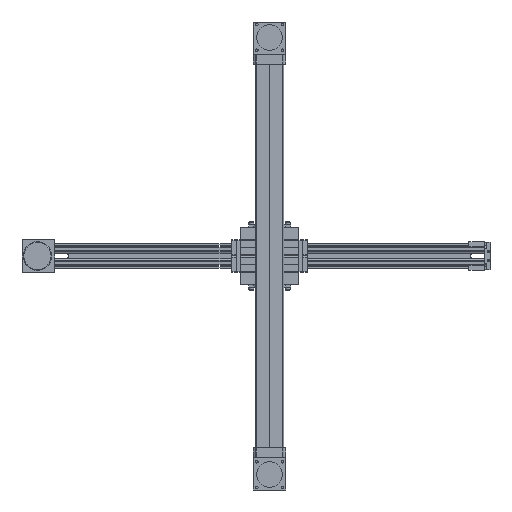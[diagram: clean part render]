
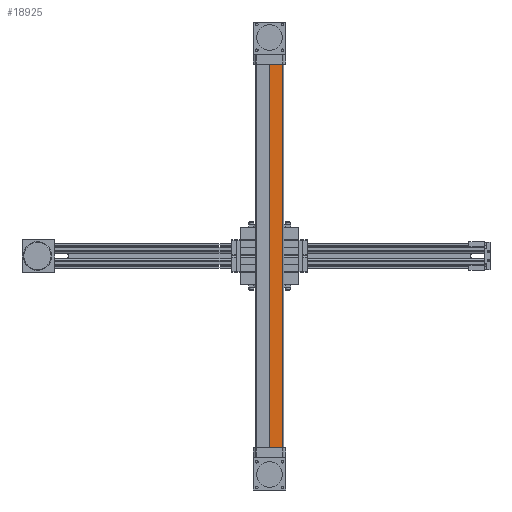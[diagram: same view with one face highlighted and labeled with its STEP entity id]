
A CAD part, left-side view. The second image highlights one B-rep face of the part: STEP entity #18925.
In plain terms, the highlighted planar face has unit normal (-1, 0, 0) as drawn and (0, 0, -1) by its records, which use the part's own axes.
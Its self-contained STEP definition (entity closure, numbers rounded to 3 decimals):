
#1006 = DIRECTION ( 'NONE',  ( 0., 0., -1. ) ) ;
#1591 = VECTOR ( 'NONE', #1902, 1000. ) ;
#1712 = ORIENTED_EDGE ( 'NONE', *, *, #36459, .F. ) ;
#1902 = DIRECTION ( 'NONE',  ( 0., -1., 0. ) ) ;
#5714 = DIRECTION ( 'NONE',  ( -1., 0., 0. ) ) ;
#6843 = DIRECTION ( 'NONE',  ( -1., 0., 0. ) ) ;
#7507 = LINE ( 'NONE', #17042, #7914 ) ;
#7914 = VECTOR ( 'NONE', #33268, 1000. ) ;
#8662 = VERTEX_POINT ( 'NONE', #20266 ) ;
#9932 = VERTEX_POINT ( 'NONE', #20423 ) ;
#10077 = EDGE_CURVE ( 'NONE', #8662, #14526, #24172, .T. ) ;
#10309 = CARTESIAN_POINT ( 'NONE',  ( 410., -28., -93.5 ) ) ;
#10760 = DIRECTION ( 'NONE',  ( -1., 0., 0. ) ) ;
#11392 = CARTESIAN_POINT ( 'NONE',  ( 410., -28., -93.5 ) ) ;
#13644 = LINE ( 'NONE', #10309, #24378 ) ;
#14526 = VERTEX_POINT ( 'NONE', #11392 ) ;
#16818 = FACE_OUTER_BOUND ( 'NONE', #29230, .T. ) ;
#16999 = CARTESIAN_POINT ( 'NONE',  ( 410., -0.1, -93.5 ) ) ;
#17042 = CARTESIAN_POINT ( 'NONE',  ( -410., 0., -93.5 ) ) ;
#18925 = ADVANCED_FACE ( 'NONE', ( #16818 ), #29510, .T. ) ;
#18980 = VERTEX_POINT ( 'NONE', #40494 ) ;
#20266 = CARTESIAN_POINT ( 'NONE',  ( 410., -0.1, -93.5 ) ) ;
#20423 = CARTESIAN_POINT ( 'NONE',  ( -410., -0.1, -93.5 ) ) ;
#20484 = AXIS2_PLACEMENT_3D ( 'NONE', #36152, #1006, #10760 ) ;
#21595 = ORIENTED_EDGE ( 'NONE', *, *, #10077, .T. ) ;
#24172 = LINE ( 'NONE', #27072, #1591 ) ;
#24378 = VECTOR ( 'NONE', #6843, 1000. ) ;
#27072 = CARTESIAN_POINT ( 'NONE',  ( 410., 0., -93.5 ) ) ;
#29230 = EDGE_LOOP ( 'NONE', ( #1712, #39397, #21595, #40348 ) ) ;
#29510 = PLANE ( 'NONE',  #20484 ) ;
#30464 = VECTOR ( 'NONE', #5714, 1000. ) ;
#33049 = EDGE_CURVE ( 'NONE', #8662, #9932, #36141, .T. ) ;
#33268 = DIRECTION ( 'NONE',  ( 0., -1., 0. ) ) ;
#36141 = LINE ( 'NONE', #16999, #30464 ) ;
#36152 = CARTESIAN_POINT ( 'NONE',  ( 410., 0., -93.5 ) ) ;
#36459 = EDGE_CURVE ( 'NONE', #9932, #18980, #7507, .T. ) ;
#39397 = ORIENTED_EDGE ( 'NONE', *, *, #33049, .F. ) ;
#39528 = EDGE_CURVE ( 'NONE', #14526, #18980, #13644, .T. ) ;
#40348 = ORIENTED_EDGE ( 'NONE', *, *, #39528, .T. ) ;
#40494 = CARTESIAN_POINT ( 'NONE',  ( -410., -28., -93.5 ) ) ;
